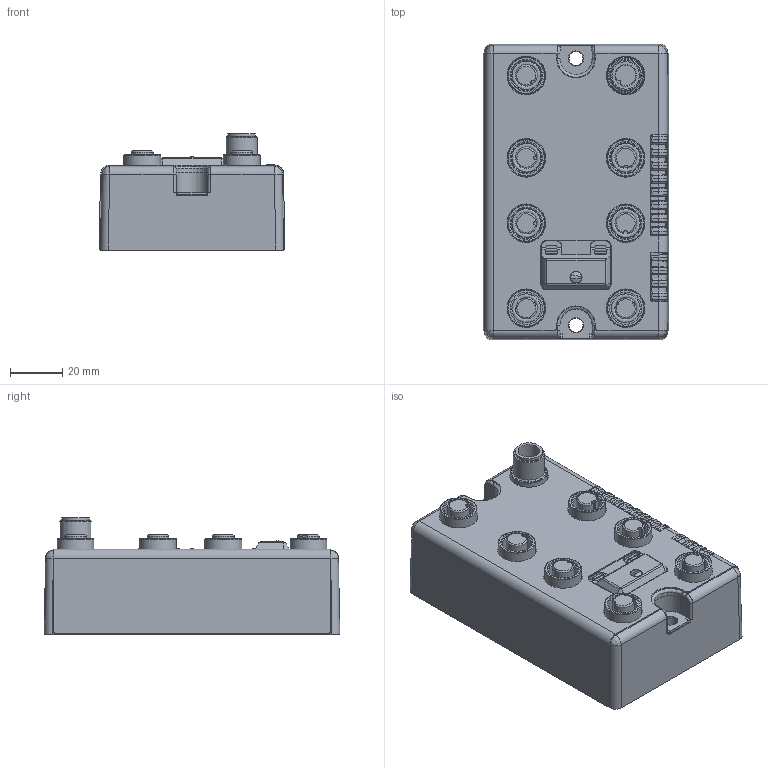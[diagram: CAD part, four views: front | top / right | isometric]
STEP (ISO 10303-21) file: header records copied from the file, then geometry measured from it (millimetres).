
FILE_DESCRIPTION (( 'STEP AP203' ), '1' );
FILE_NAME ('BLCEN-4M12MT.step', '2020-08-14T16:44:22', ( '' ), ( '' ), 'SwSTEP 2.0', 'SolidWorks 2019', '' );
FILE_SCHEMA (( 'CONFIG_CONTROL_DESIGN' ));
Length unit declared in the file: millimetre
Products named in the file (1): BLCEN-4M12MT
Bounding box: 70.99 x 113 x 44.4 mm (x, y, z)
Volume: 255747.5 mm3; surface area: 37072.9 mm2
Topology: 1 solids, 19 shells, 1108 faces, 2822 edges, 1765 vertices
Faces by surface type: plane 458, cylinder 336, bspline 246, cone 66, torus 2
Full cylindrical faces by diameter (mm): 1.5 x2, 2 x1, 3.2 x1, 4.3 x1, 4.6 x1, 5.756 x1, 8.3 x1, 10.5 x1, 11 x7, 12 x1, 12.3 x7, 14.1 x16, 14.5 x8, 14.75 x8
Entity records: 54775 total; most frequent: CARTESIAN_POINT 31734, ORIENTED_EDGE 5342, DIRECTION 3677, EDGE_CURVE 2671, VERTEX_POINT 1719, EDGE_LOOP 1270, AXIS2_PLACEMENT_3D 1251, FACE_OUTER_BOUND 1180
